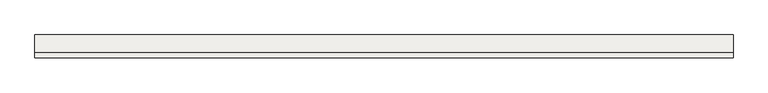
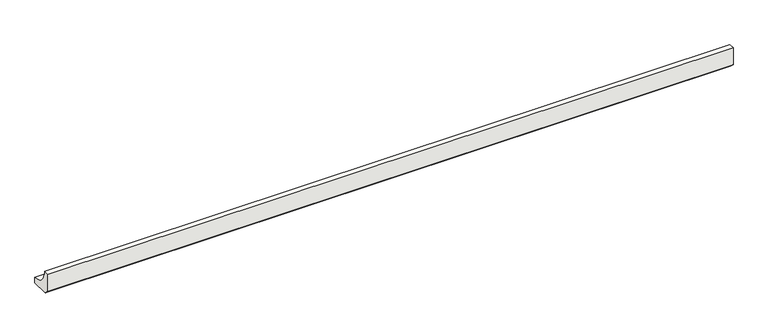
"""IFC4 building model written with IfcOpenShell, lengths in millimetres: slab geometry, ROSA GRES_112 : Pieza 112_Aqua_Plomo_Liso."""

import ifcopenshell
import ifcopenshell.guid

model = None  # the IFC model being written
_history = None  # IfcOwnerHistory: only IFC2X3 demands one
_inside = {}  # id of a spatial element -> (the spatial element, [elements in it])
_under = {}  # id of a project, library or spatial element -> (it, [spatial elements below it])
_declared = {}  # id of a project -> (the project, [libraries it declares])
_typed = {}  # id of a type object -> (the type object, [elements of that type])
_made_of = {}  # id of a material, layer set ... -> (it, [elements and type objects made of it])


def new_model(schema):
    """Start an empty IFC model of exactly this schema.

    Asked for "IFC4X3", IfcOpenShell would pick the latest addendum, in which some entities
    have other attributes; the version numbers below select the first issue.
    IFC2X3 requires an IfcOwnerHistory on every rooted entity: one is made here for all.
    """
    global model, _history
    if schema == "IFC4X3":
        model = ifcopenshell.file(schema_version=(4, 3, 0, 0))
    else:
        model = ifcopenshell.file(schema=schema)
    _inside.clear()
    _under.clear()
    _declared.clear()
    _typed.clear()
    _made_of.clear()
    _history = None
    if model.schema == "IFC2X3":
        org = make("IfcOrganization", Name="unknown")
        user = make(
            "IfcPersonAndOrganization",
            ThePerson=make("IfcPerson", FamilyName="unknown"),
            TheOrganization=org,
        )
        app = make(
            "IfcApplication",
            ApplicationDeveloper=org,
            Version="unknown",
            ApplicationFullName="unknown",
            ApplicationIdentifier="unknown",
        )
        _history = make(
            "IfcOwnerHistory",
            OwningUser=user,
            OwningApplication=app,
            ChangeAction="ADDED",
            CreationDate=0,
        )
    return model


def make(cls, **values):
    """One entity of the class cls with the attributes given. An attribute that is None is left unset."""
    return model.create_entity(
        cls, **{name: value for name, value in values.items() if value is not None}
    )


def rooted(cls, **values):
    """An entity with a GlobalId (a new one), such as an element, a storey or a relation."""
    return make(cls, GlobalId=ifcopenshell.guid.new(), OwnerHistory=_history, **values)


def si_unit(unit_type, name, prefix=None):
    """IfcSIUnit, for example si_unit("LENGTHUNIT", "METRE", prefix="MILLI")."""
    return make("IfcSIUnit", UnitType=unit_type, Prefix=prefix, Name=name)


def assignment(units):
    """IfcUnitAssignment: the units of a project."""
    return None if units is None else make("IfcUnitAssignment", Units=units)


def point(xyz):
    """IfcCartesianPoint."""
    return None if xyz is None else make("IfcCartesianPoint", Coordinates=xyz)


def direction(xyz):
    """IfcDirection."""
    return None if xyz is None else make("IfcDirection", DirectionRatios=xyz)


def frame(location, z_axis=None, x_axis=None):
    """IfcAxis2Placement3D, a coordinate frame: its origin and axes. An axis left out is left unset."""
    return make(
        "IfcAxis2Placement3D",
        Location=point(location),
        Axis=direction(z_axis),
        RefDirection=direction(x_axis),
    )


def frame_2d(location, x_axis=None):
    """IfcAxis2Placement2D, a coordinate frame in the plane: its origin and x axis."""
    return make(
        "IfcAxis2Placement2D", Location=point(location), RefDirection=direction(x_axis)
    )


def origin():
    """The frame at (0, 0, 0) with its axes left unset."""
    return frame((0.0, 0.0, 0.0))


def place(relative_to, where):
    """IfcLocalPlacement: puts the frame where relative to a parent placement (None: the world)."""
    return make(
        "IfcLocalPlacement", PlacementRelTo=relative_to, RelativePlacement=where
    )


def context(
    kind, dimensions, precision=None, world=None, true_north=None, identifier=None
):
    """IfcGeometricRepresentationContext, for example the 3D "Model" context."""
    return make(
        "IfcGeometricRepresentationContext",
        ContextIdentifier=identifier,
        ContextType=kind,
        CoordinateSpaceDimension=dimensions,
        Precision=precision,
        WorldCoordinateSystem=world,
        TrueNorth=true_north,
    )


def project(units=None, contexts=None):
    """IfcProject with its units and contexts."""
    return rooted(
        "IfcProject",
        Name="project",
        RepresentationContexts=contexts,
        UnitsInContext=assignment(units),
    )


def spatial(cls, under=None, at=None, **own):
    """A site, building, storey or space (cls), placed at a placement, below another one or the project."""
    s = rooted(cls, ObjectPlacement=at, **own)
    if under is not None:
        _under.setdefault(under.id(), (under, []))[1].append(s)
    return s


def polyline(points):
    """IfcPolyline through the points."""
    return make("IfcPolyline", Points=[point(p) for p in points])


def circle_curve(where, radius):
    """IfcCircle in the frame where."""
    return make("IfcCircle", Position=where, Radius=radius)


def trimmed(basis, trim1, trim2, sense, master):
    """IfcTrimmedCurve: the piece of a basis curve between two trims."""
    return make(
        "IfcTrimmedCurve",
        BasisCurve=basis,
        Trim1=trim1,
        Trim2=trim2,
        SenseAgreement=sense,
        MasterRepresentation=master,
    )


def segment(curve, same_sense, transition):
    """IfcCompositeCurveSegment."""
    return make(
        "IfcCompositeCurveSegment",
        Transition=transition,
        SameSense=same_sense,
        ParentCurve=curve,
    )


def composite_curve(segments, self_intersect=None):
    """IfcCompositeCurve: segments joined end to end."""
    return make("IfcCompositeCurve", Segments=segments, SelfIntersect=self_intersect)


def outline(outer, holes=None, kind="AREA"):
    """IfcArbitraryClosedProfileDef: a profile drawn as a closed curve; with holes, ...WithVoids."""
    if holes is None:
        return make("IfcArbitraryClosedProfileDef", ProfileType=kind, OuterCurve=outer)
    return make(
        "IfcArbitraryProfileDefWithVoids",
        ProfileType=kind,
        OuterCurve=outer,
        InnerCurves=holes,
    )


def extrude(swept, where, along, depth):
    """IfcExtrudedAreaSolid: the profile swept, set in the frame where, extruded along a direction by depth."""
    return make(
        "IfcExtrudedAreaSolid",
        SweptArea=swept,
        Position=where,
        ExtrudedDirection=direction(along),
        Depth=depth,
    )


def shape(context_of_items, identifier, shape_type, items):
    """IfcShapeRepresentation: the items that make up one representation, for example the "Body"."""
    return make(
        "IfcShapeRepresentation",
        ContextOfItems=context_of_items,
        RepresentationIdentifier=identifier,
        RepresentationType=shape_type,
        Items=items,
    )


def source(mapping_origin, context_of_items, identifier, shape_type, items):
    """IfcRepresentationMap: a shape defined once, which mapped items show again and again."""
    return make(
        "IfcRepresentationMap",
        MappingOrigin=mapping_origin,
        MappedRepresentation=shape(context_of_items, identifier, shape_type, items),
    )


def transform(
    local_origin,
    x_axis=None,
    y_axis=None,
    z_axis=None,
    scale=None,
    scale2=None,
    scale3=None,
    uniform=True,
):
    """IfcCartesianTransformationOperator3D, or its non-uniform kind. x_axis, y_axis, z_axis: its Axis1, 2, 3."""
    if uniform:
        return make(
            "IfcCartesianTransformationOperator3D",
            Axis1=direction(x_axis),
            Axis2=direction(y_axis),
            LocalOrigin=point(local_origin),
            Scale=scale,
            Axis3=direction(z_axis),
        )
    return make(
        "IfcCartesianTransformationOperator3DnonUniform",
        Axis1=direction(x_axis),
        Axis2=direction(y_axis),
        LocalOrigin=point(local_origin),
        Scale=scale,
        Axis3=direction(z_axis),
        Scale2=scale2,
        Scale3=scale3,
    )


def mapped(mapping_source, mapping_target):
    """IfcMappedItem: shows the shape of a source again, moved by a transform."""
    return make(
        "IfcMappedItem", MappingSource=mapping_source, MappingTarget=mapping_target
    )


def made_of(thing, what):
    """Note that an element or type object is made of a material, layer set ...; save() writes the relation."""
    if what is not None:
        _made_of.setdefault(what.id(), (what, []))[1].append(thing)
    return thing


def element(
    cls,
    number,
    at=None,
    inside=None,
    cuts=None,
    type_object=None,
    material=None,
    context=None,
    identifier="Body",
    shape_type=None,
    held_by="IfcProductDefinitionShape",
    body=None,
    shapes=None,
    **own,
):
    """One element of the class cls, such as IfcWall. Its Tag is "e" and its number.

    at: its placement. inside: the storey or other place that contains it. cuts: it is an
    opening in that element (IfcRelVoidsElement). A single representation is given by context,
    identifier, shape_type and body (its items); several are given by shapes. held_by: the class
    of the entity that holds the representations. save() writes the other relations.
    """
    e = rooted(cls, Tag="e%d" % number, ObjectPlacement=at, **own)
    if body is not None:
        shapes = [shape(context, identifier, shape_type, body)]
    if shapes is not None:
        e.Representation = make(held_by, Representations=shapes)
    if inside is not None:
        _inside.setdefault(inside.id(), (inside, []))[1].append(e)
    if cuts is not None:
        rooted(
            "IfcRelVoidsElement", RelatingBuildingElement=cuts, RelatedOpeningElement=e
        )
    if type_object is not None:
        _typed.setdefault(type_object.id(), (type_object, []))[1].append(e)
    return made_of(e, material)


def aggregate(whole, parts):
    """IfcRelAggregates: a whole, such as a stair, and the parts it consists of."""
    return rooted("IfcRelAggregates", RelatingObject=whole, RelatedObjects=parts)


def save(model, path):
    """Write the relations noted so far, then the file.

    IfcRelAggregates (storeys below a building ...), IfcRelContainedInSpatialStructure (elements
    in a storey), IfcRelDefinesByType, IfcRelAssociatesMaterial and IfcRelDeclares: one each for
    every whole, place, type object, material and project.
    """
    for whole, parts in _under.values():
        aggregate(whole, parts)
    for where, things in _inside.values():
        rooted(
            "IfcRelContainedInSpatialStructure",
            RelatedElements=things,
            RelatingStructure=where,
        )
    for kind, things in _typed.values():
        rooted("IfcRelDefinesByType", RelatedObjects=things, RelatingType=kind)
    for what, things in _made_of.values():
        rooted("IfcRelAssociatesMaterial", RelatedObjects=things, RelatingMaterial=what)
    for by, libraries in _declared.values():
        rooted("IfcRelDeclares", RelatingContext=by, RelatedDefinitions=libraries)
    model.write(path)


def slab_b74d65db(model_context):
    return source(origin(), model_context, "Body", "SweptSolid", [
        extrude(outline(composite_curve([segment(polyline([(0.0, 8.7114978), (0.0, 40.0), (9.9734114, 40.0)]), True, "CONTINUOUS"), segment(trimmed(circle_curve(frame_2d((39.9955547, 39.9955547)), 30.0221435), [point((9.9734114, 40.0))], [point((40.0, 9.9734114))], True, "CARTESIAN"), True, "CONTINUOUS"), segment(polyline([(40.0, 9.9734114), (40.0, 0.0), (8.7114978, 0.0), (0.0, 8.7114978)]), True, "CONTINUOUS")], self_intersect=False)), frame((0.0, 0.0, 0.0), z_axis=(1.0, 0.0, 0.0), x_axis=(0.0, 1.0, 0.0)), (0.0, 0.0, 1.0), 1210.0),
    ])


if __name__ == "__main__":
    model = new_model("IFC4")
    model_context = context("Model", 3, world=origin())
    ifc_project = project(units=[si_unit("LENGTHUNIT", "METRE", prefix="MILLI")], contexts=[model_context])
    site = spatial("IfcSite", under=ifc_project)
    building = spatial("IfcBuilding", under=site)
    placement = place(None, origin())
    slab_shape = slab_b74d65db(model_context)
    element("IfcSlab", 1, ObjectType="ROSA GRES_112 : Pieza 112_Aqua_Plomo_Liso", at=placement, inside=building, context=model_context, shape_type="MappedRepresentation", body=[
        mapped(slab_shape, transform((0.0, 0.0, 0.0), x_axis=(1.0, 0.0, 0.0), y_axis=(0.0, 1.0, 0.0), z_axis=(0.0, 0.0, 1.0))),
    ])
    save(model, "model.ifc")
